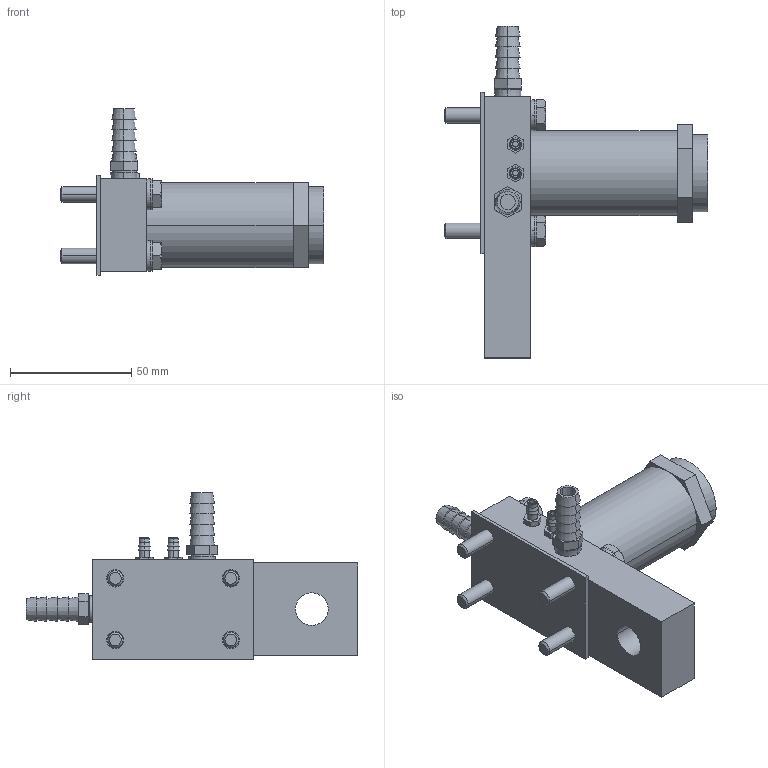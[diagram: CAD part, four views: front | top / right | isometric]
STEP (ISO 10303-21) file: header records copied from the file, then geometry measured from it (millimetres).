
FILE_DESCRIPTION((''),'2;1');
FILE_NAME('XHR3_ASM','2017-08-24T',('jennifer.elliott'),('CenterLine (Windsor) Ltd - Automation Components Division'),'PRO/ENGINEER BY PARAMETRIC TECHNOLOGY CORPORATION, 2015030','PRO/ENGINEER BY PARAMETRIC TECHNOLOGY CORPORATION, 2015030','');
FILE_SCHEMA(('AUTOMOTIVE_DESIGN { 1 0 10303 214 1 1 1 1 }'));
Length unit declared in the file: inch
Products named in the file (22): PRT1222; PRT1223; PRT1224; PRT1225; PRT1226; PRT1227; PRT1228; PRT1229; PRT1230; PRT1231; PRT1232; PRT1233; PRT1234; PRT1235; PRT1236; PRT1237; PRT1238; PRT1239; PRT1240; PRT1241; PRT1242; XHR3_ASM
Assembly tree (21 placements, depth 2):
  XHR3_ASM
    PRT1222
    PRT1223
    PRT1224
    PRT1225
    PRT1226
    PRT1227
    PRT1228
    PRT1229
    PRT1230
    PRT1231
    PRT1232
    PRT1233
    PRT1234
    PRT1235
    PRT1236
    PRT1237
    PRT1238
    PRT1239
    PRT1240
    PRT1241
    PRT1242
Bounding box: 108.78 x 136.91 x 68.64 mm (x, y, z)
Volume: 155670.7 mm3; surface area: 48097.1 mm2
Topology: 21 solids, 21 shells, 294 faces, 632 edges, 408 vertices
Faces by surface type: plane 132, cylinder 90, cone 64, torus 8
Entity records: 9681 total; most frequent: CARTESIAN_POINT 1693, DIRECTION 1550, ORIENTED_EDGE 1264, EDGE_CURVE 632, AXIS2_PLACEMENT_3D 629, VERTEX_POINT 408, EDGE_LOOP 364, FACE_OUTER_BOUND 294
